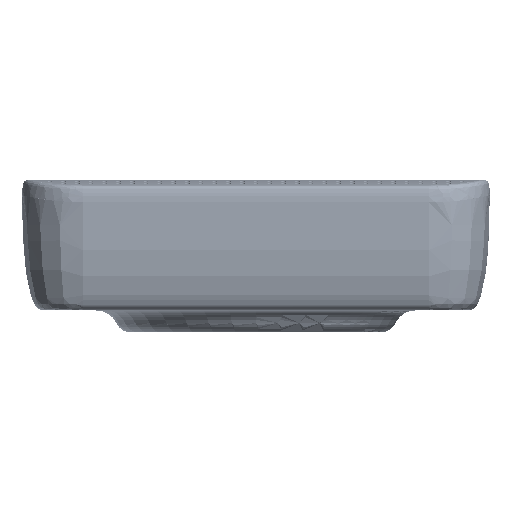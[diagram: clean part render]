
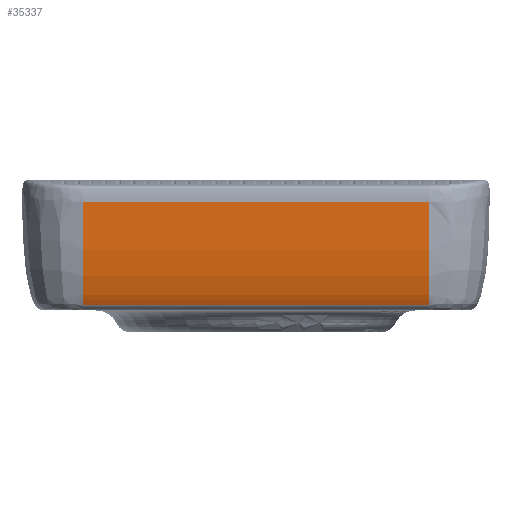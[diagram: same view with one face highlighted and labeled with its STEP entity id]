
A CAD part, front view. The second image highlights one B-rep face of the part: STEP entity #35337.
In plain terms, the highlighted free-form (B-spline) face has degree [3, 1] with [12, 2] control points.
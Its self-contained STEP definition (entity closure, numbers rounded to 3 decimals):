
#133=B_SPLINE_SURFACE_WITH_KNOTS('',3,1,((#81822,#81823),(#81824,#81825),
(#81826,#81827),(#81828,#81829),(#81830,#81831),(#81832,#81833),(#81834,
#81835),(#81836,#81837),(#81838,#81839),(#81840,#81841),(#81842,#81843),
(#81844,#81845)),.UNSPECIFIED.,.F.,.F.,.F.,(4,1,1,1,1,1,1,1,1,4),(2,2),
(0.,0.009,0.079,0.149,0.219,
0.359,0.499,0.638,0.778,1.),(-32.129,
32.129),.UNSPECIFIED.);
#891=B_SPLINE_CURVE_WITH_KNOTS('',3,(#81811,#81812,#81813,#81814,#81815,
#81816,#81817,#81818,#81819,#81820,#81821),.UNSPECIFIED.,.F.,.F.,(4,1,1,
1,1,1,1,1,4),(0.,0.071,0.142,
0.213,0.356,0.498,0.641,
0.784,1.),.UNSPECIFIED.);
#892=B_SPLINE_CURVE_WITH_KNOTS('',3,(#81846,#81847,#81848,#81849,#81850,
#81851,#81852,#81853,#81854,#81855,#81856,#81857,#81858,#81859,#81860,#81861,
#81862,#81863,#81864,#81865,#81866,#81867,#81868,#81869,#81870),
 .UNSPECIFIED.,.F.,.F.,(4,3,3,3,3,3,3,3,4),(0.,0.071,0.142,
0.213,0.356,0.498,0.641,
0.784,1.),.UNSPECIFIED.);
#7238=FACE_OUTER_BOUND('',#10800,.T.);
#10800=EDGE_LOOP('',(#31252,#31253,#31254,#31255));
#12870=LINE('',#80525,#14915);
#12882=LINE('',#81719,#14927);
#14915=VECTOR('',#49466,10.);
#14927=VECTOR('',#49514,1.);
#18038=VERTEX_POINT('',#80340);
#18039=VERTEX_POINT('',#80524);
#18058=VERTEX_POINT('',#81703);
#18059=VERTEX_POINT('',#81718);
#22492=EDGE_CURVE('',#18038,#18039,#12870,.T.);
#22532=EDGE_CURVE('',#18059,#18058,#12882,.T.);
#22534=EDGE_CURVE('',#18038,#18059,#891,.T.);
#22535=EDGE_CURVE('',#18039,#18058,#892,.T.);
#31252=ORIENTED_EDGE('',*,*,#22534,.T.);
#31253=ORIENTED_EDGE('',*,*,#22532,.T.);
#31254=ORIENTED_EDGE('',*,*,#22535,.F.);
#31255=ORIENTED_EDGE('',*,*,#22492,.F.);
#35337=ADVANCED_FACE('',(#7238),#133,.T.);
#49466=DIRECTION('',(-1.,0.,0.));
#49514=DIRECTION('',(-1.,0.,0.));
#80340=CARTESIAN_POINT('',(-53.823,9.869,-22.616));
#80524=CARTESIAN_POINT('',(-116.822,9.868,-22.615));
#80525=CARTESIAN_POINT('',(-53.823,9.869,-22.616));
#81703=CARTESIAN_POINT('',(-116.822,7.63,-4.043));
#81718=CARTESIAN_POINT('',(-53.823,7.63,-4.043));
#81719=CARTESIAN_POINT('',(-53.823,7.63,-4.043));
#81811=CARTESIAN_POINT('Ctrl Pts',(-53.823,9.869,-22.616));
#81812=CARTESIAN_POINT('Ctrl Pts',(-53.823,9.673,-22.238));
#81813=CARTESIAN_POINT('Ctrl Pts',(-53.823,9.353,-21.447));
#81814=CARTESIAN_POINT('Ctrl Pts',(-53.823,8.989,-20.211));
#81815=CARTESIAN_POINT('Ctrl Pts',(-53.823,8.608,-18.515));
#81816=CARTESIAN_POINT('Ctrl Pts',(-53.823,8.269,-16.339));
#81817=CARTESIAN_POINT('Ctrl Pts',(-53.823,7.995,-13.672));
#81818=CARTESIAN_POINT('Ctrl Pts',(-53.823,7.813,-10.967));
#81819=CARTESIAN_POINT('Ctrl Pts',(-53.823,7.679,-7.763));
#81820=CARTESIAN_POINT('Ctrl Pts',(-53.823,7.639,-5.446));
#81821=CARTESIAN_POINT('Ctrl Pts',(-53.823,7.63,-4.043));
#81822=CARTESIAN_POINT('Ctrl Pts',(-53.193,9.954,-22.776));
#81823=CARTESIAN_POINT('Ctrl Pts',(-117.452,9.954,-22.776));
#81824=CARTESIAN_POINT('Ctrl Pts',(-53.193,9.926,-22.726));
#81825=CARTESIAN_POINT('Ctrl Pts',(-117.452,9.926,-22.726));
#81826=CARTESIAN_POINT('Ctrl Pts',(-53.193,9.697,-22.296));
#81827=CARTESIAN_POINT('Ctrl Pts',(-117.452,9.697,-22.296));
#81828=CARTESIAN_POINT('Ctrl Pts',(-53.193,9.354,-21.45));
#81829=CARTESIAN_POINT('Ctrl Pts',(-117.452,9.354,-21.45));
#81830=CARTESIAN_POINT('Ctrl Pts',(-53.193,8.989,-20.211));
#81831=CARTESIAN_POINT('Ctrl Pts',(-117.452,8.989,-20.211));
#81832=CARTESIAN_POINT('Ctrl Pts',(-53.193,8.608,-18.515));
#81833=CARTESIAN_POINT('Ctrl Pts',(-117.452,8.608,-18.515));
#81834=CARTESIAN_POINT('Ctrl Pts',(-53.193,8.269,-16.339));
#81835=CARTESIAN_POINT('Ctrl Pts',(-117.452,8.269,-16.339));
#81836=CARTESIAN_POINT('Ctrl Pts',(-53.193,7.995,-13.672));
#81837=CARTESIAN_POINT('Ctrl Pts',(-117.452,7.995,-13.672));
#81838=CARTESIAN_POINT('Ctrl Pts',(-53.193,7.813,-10.967));
#81839=CARTESIAN_POINT('Ctrl Pts',(-117.452,7.813,-10.967));
#81840=CARTESIAN_POINT('Ctrl Pts',(-53.193,7.677,-7.701));
#81841=CARTESIAN_POINT('Ctrl Pts',(-117.452,7.677,-7.701));
#81842=CARTESIAN_POINT('Ctrl Pts',(-53.193,7.637,-5.321));
#81843=CARTESIAN_POINT('Ctrl Pts',(-117.452,7.637,-5.321));
#81844=CARTESIAN_POINT('Ctrl Pts',(-53.193,7.629,-3.855));
#81845=CARTESIAN_POINT('Ctrl Pts',(-117.452,7.629,-3.855));
#81846=CARTESIAN_POINT('Ctrl Pts',(-116.822,9.868,-22.615));
#81847=CARTESIAN_POINT('Ctrl Pts',(-116.822,9.673,-22.237));
#81848=CARTESIAN_POINT('Ctrl Pts',(-116.822,9.514,-21.843));
#81849=CARTESIAN_POINT('Ctrl Pts',(-116.822,9.374,-21.442));
#81850=CARTESIAN_POINT('Ctrl Pts',(-116.822,9.232,-21.037));
#81851=CARTESIAN_POINT('Ctrl Pts',(-116.822,9.111,-20.624));
#81852=CARTESIAN_POINT('Ctrl Pts',(-116.822,9.002,-20.205));
#81853=CARTESIAN_POINT('Ctrl Pts',(-116.822,8.894,-19.787));
#81854=CARTESIAN_POINT('Ctrl Pts',(-116.822,8.799,-19.363));
#81855=CARTESIAN_POINT('Ctrl Pts',(-116.822,8.712,-18.935));
#81856=CARTESIAN_POINT('Ctrl Pts',(-116.822,8.54,-18.08));
#81857=CARTESIAN_POINT('Ctrl Pts',(-116.822,8.405,-17.209));
#81858=CARTESIAN_POINT('Ctrl Pts',(-116.822,8.291,-16.329));
#81859=CARTESIAN_POINT('Ctrl Pts',(-116.822,8.178,-15.45));
#81860=CARTESIAN_POINT('Ctrl Pts',(-116.822,8.086,-14.561));
#81861=CARTESIAN_POINT('Ctrl Pts',(-116.822,8.01,-13.666));
#81862=CARTESIAN_POINT('Ctrl Pts',(-116.822,7.934,-12.77));
#81863=CARTESIAN_POINT('Ctrl Pts',(-116.822,7.873,-11.869));
#81864=CARTESIAN_POINT('Ctrl Pts',(-116.822,7.824,-10.962));
#81865=CARTESIAN_POINT('Ctrl Pts',(-116.822,7.775,-10.056));
#81866=CARTESIAN_POINT('Ctrl Pts',(-116.822,7.737,-9.145));
#81867=CARTESIAN_POINT('Ctrl Pts',(-116.822,7.708,-8.23));
#81868=CARTESIAN_POINT('Ctrl Pts',(-116.822,7.663,-6.842));
#81869=CARTESIAN_POINT('Ctrl Pts',(-116.822,7.639,-5.446));
#81870=CARTESIAN_POINT('Ctrl Pts',(-116.822,7.63,-4.043));
